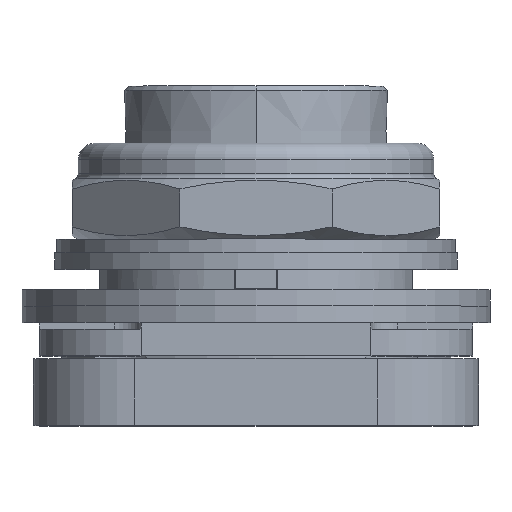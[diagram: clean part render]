
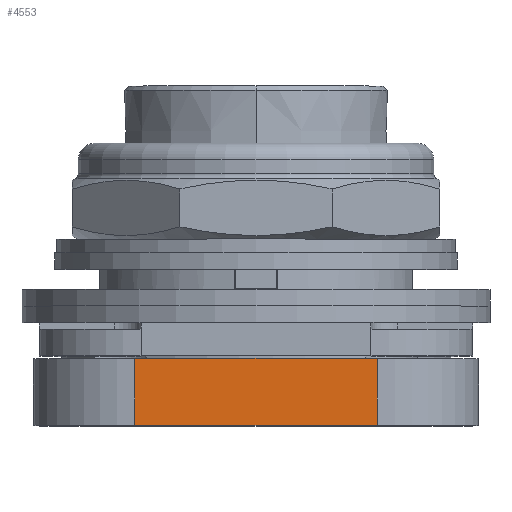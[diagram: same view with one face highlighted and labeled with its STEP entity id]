
A CAD part, top view. The second image highlights one B-rep face of the part: STEP entity #4553.
In plain terms, the highlighted planar face has unit normal (0, 0, 1) as drawn and (0, 0, -1) by its records, which use the part's own axes.
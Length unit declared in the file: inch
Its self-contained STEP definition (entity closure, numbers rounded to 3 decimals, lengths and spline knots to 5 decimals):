
#1762=DIRECTION('',(-1.,0.,0.));
#1763=VECTOR('',#1762,0.905);
#1764=CARTESIAN_POINT('',(0.4525,0.,-0.8325));
#1765=LINE('',#1764,#1763);
#1934=DIRECTION('',(0.,-1.,0.));
#1935=VECTOR('',#1934,0.25);
#1936=CARTESIAN_POINT('',(0.4525,0.25,-0.8325));
#1937=LINE('',#1936,#1935);
#2113=DIRECTION('',(-1.,0.,0.));
#2114=VECTOR('',#2113,0.905);
#2115=CARTESIAN_POINT('',(0.4525,0.25,-0.8325));
#2116=LINE('',#2115,#2114);
#2730=DIRECTION('',(0.,-1.,0.));
#2731=VECTOR('',#2730,0.25);
#2732=CARTESIAN_POINT('',(-0.4525,0.25,-0.8325));
#2733=LINE('',#2732,#2731);
#2898=CARTESIAN_POINT('',(0.4525,0.25,-0.8325));
#2899=CARTESIAN_POINT('',(0.4525,0.,-0.8325));
#2900=VERTEX_POINT('',#2898);
#2901=VERTEX_POINT('',#2899);
#2918=CARTESIAN_POINT('',(-0.4525,0.25,-0.8325));
#2919=CARTESIAN_POINT('',(-0.4525,0.,-0.8325));
#2920=VERTEX_POINT('',#2918);
#2921=VERTEX_POINT('',#2919);
#4542=CARTESIAN_POINT('',(0.8325,0.,-0.8325));
#4543=DIRECTION('',(0.,0.,-1.));
#4544=DIRECTION('',(-1.,0.,0.));
#4545=AXIS2_PLACEMENT_3D('',#4542,#4543,#4544);
#4546=PLANE('',#4545);
#4547=ORIENTED_EDGE('',*,*,#3399,.F.);
#4548=ORIENTED_EDGE('',*,*,#3418,.T.);
#4549=ORIENTED_EDGE('',*,*,#4537,.T.);
#4550=ORIENTED_EDGE('',*,*,#3233,.F.);
#4551=EDGE_LOOP('',(#4547,#4548,#4549,#4550));
#4552=FACE_OUTER_BOUND('',#4551,.F.);
#4553=ADVANCED_FACE('',(#4552),#4546,.T.);
#3233=EDGE_CURVE('',#2901,#2921,#1765,.T.);
#3399=EDGE_CURVE('',#2900,#2901,#1937,.T.);
#3418=EDGE_CURVE('',#2900,#2920,#2116,.T.);
#4537=EDGE_CURVE('',#2920,#2921,#2733,.T.);
